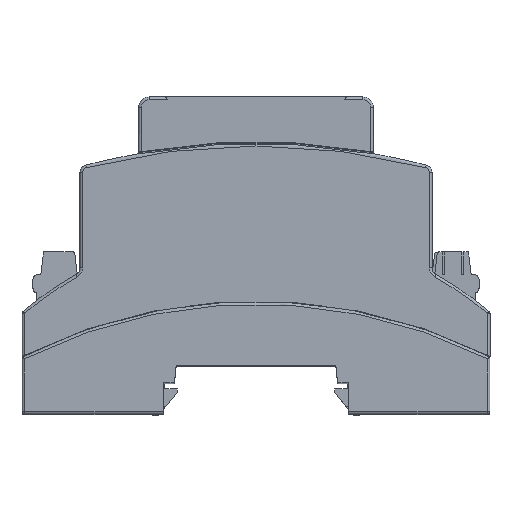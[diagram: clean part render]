
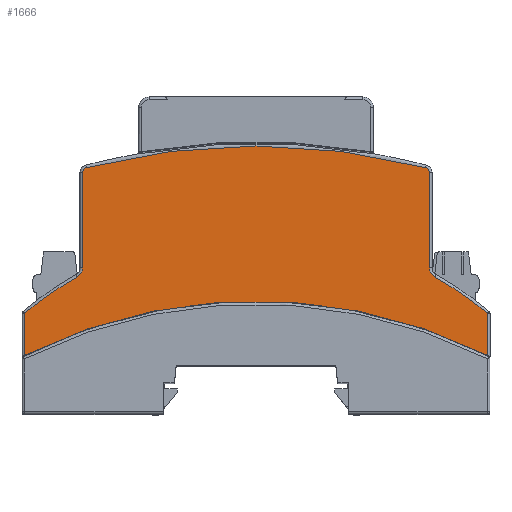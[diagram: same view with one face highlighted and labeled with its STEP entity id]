
A CAD part, top view. The second image highlights one B-rep face of the part: STEP entity #1666.
In plain terms, the highlighted planar face has unit normal (0, 0, 1).
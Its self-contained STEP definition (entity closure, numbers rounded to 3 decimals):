
#1666=ADVANCED_FACE('',(#4141),#4142,.F.);
#4141=FACE_OUTER_BOUND('',#7440,.T.);
#4142=PLANE('',#7441);
#7440=EDGE_LOOP('',(#12897,#12898,#12899,#12900,#12901,#12902,#12903,#12904,#12905,#12906,#12907,#12908));
#7441=AXIS2_PLACEMENT_3D('',#12909,#12910,#12911);
#12897=ORIENTED_EDGE('',*,*,#22098,.T.);
#12898=ORIENTED_EDGE('',*,*,#22099,.F.);
#12899=ORIENTED_EDGE('',*,*,#21836,.T.);
#12900=ORIENTED_EDGE('',*,*,#22100,.F.);
#12901=ORIENTED_EDGE('',*,*,#22101,.T.);
#12902=ORIENTED_EDGE('',*,*,#22094,.F.);
#12903=ORIENTED_EDGE('',*,*,#22102,.F.);
#12904=ORIENTED_EDGE('',*,*,#22103,.T.);
#12905=ORIENTED_EDGE('',*,*,#22104,.F.);
#12906=ORIENTED_EDGE('',*,*,#22105,.F.);
#12907=ORIENTED_EDGE('',*,*,#22106,.T.);
#12908=ORIENTED_EDGE('',*,*,#22107,.F.);
#12909=CARTESIAN_POINT('',(18.596,109.589,-65.5));
#12910=DIRECTION('',(0.,0.,-1.0));
#12911=DIRECTION('',(-1.0,0.0,0.));
#21836=EDGE_CURVE('',#26950,#26948,#26951,.T.);
#22094=EDGE_CURVE('',#27354,#27355,#27356,.T.);
#22098=EDGE_CURVE('',#27360,#27361,#27362,.T.);
#22099=EDGE_CURVE('',#26950,#27361,#27363,.T.);
#22100=EDGE_CURVE('',#27364,#26948,#27365,.T.);
#22101=EDGE_CURVE('',#27364,#27355,#27366,.T.);
#22102=EDGE_CURVE('',#27367,#27354,#27368,.T.);
#22103=EDGE_CURVE('',#27367,#27369,#27370,.T.);
#22104=EDGE_CURVE('',#27371,#27369,#27372,.T.);
#22105=EDGE_CURVE('',#27373,#27371,#27374,.T.);
#22106=EDGE_CURVE('',#27373,#27375,#27376,.T.);
#22107=EDGE_CURVE('',#27360,#27375,#27377,.T.);
#26948=VERTEX_POINT('',#34220);
#26950=VERTEX_POINT('',#34222);
#26951=CIRCLE('',#34223,69.5);
#27354=VERTEX_POINT('',#35157);
#27355=VERTEX_POINT('',#35158);
#27356=LINE('',#35159,#35160);
#27360=VERTEX_POINT('',#35212);
#27361=VERTEX_POINT('',#35213);
#27362=LINE('',#35214,#35215);
#27363=CIRCLE('',#35216,2.0);
#27364=VERTEX_POINT('',#35217);
#27365=LINE('',#35218,#35219);
#27366=CIRCLE('',#35220,99.5);
#27367=VERTEX_POINT('',#35221);
#27368=CIRCLE('',#35222,69.5);
#27369=VERTEX_POINT('',#35223);
#27370=CIRCLE('',#35224,2.0);
#27371=VERTEX_POINT('',#35225);
#27372=LINE('',#35226,#35227);
#27373=VERTEX_POINT('',#35228);
#27374=CIRCLE('',#35229,1.0);
#27375=VERTEX_POINT('',#35230);
#27376=CIRCLE('',#35231,129.2);
#27377=CIRCLE('',#35232,1.0);
#34220=CARTESIAN_POINT('',(-44.1,84.86,-65.5));
#34222=CARTESIAN_POINT('',(-34.014,91.817,-65.5));
#34223=AXIS2_PLACEMENT_3D('',#42118,#42119,#42120);
#35157=CARTESIAN_POINT('',(44.6,84.86,-65.5));
#35158=CARTESIAN_POINT('',(44.6,76.769,-65.5));
#35159=CARTESIAN_POINT('',(44.6,84.86,-65.5));
#35160=VECTOR('',#42439,8.091);
#35212=CARTESIAN_POINT('',(-33.,111.777,-65.5));
#35213=CARTESIAN_POINT('',(-33.,93.557,-65.5));
#35214=CARTESIAN_POINT('',(-33.,111.777,-65.5));
#35215=VECTOR('',#42443,18.22);
#35216=AXIS2_PLACEMENT_3D('',#42444,#42445,#42446);
#35217=CARTESIAN_POINT('',(-44.1,76.769,-65.5));
#35218=CARTESIAN_POINT('',(-44.1,76.769,-65.5));
#35219=VECTOR('',#42447,8.091);
#35220=AXIS2_PLACEMENT_3D('',#42448,#42449,#42450);
#35221=CARTESIAN_POINT('',(34.514,91.817,-65.5));
#35222=AXIS2_PLACEMENT_3D('',#42451,#42452,#42453);
#35223=CARTESIAN_POINT('',(33.5,93.557,-65.5));
#35224=AXIS2_PLACEMENT_3D('',#42454,#42455,#42456);
#35225=CARTESIAN_POINT('',(33.5,111.777,-65.5));
#35226=CARTESIAN_POINT('',(33.5,111.777,-65.5));
#35227=VECTOR('',#42457,18.22);
#35228=CARTESIAN_POINT('',(32.752,112.745,-65.5));
#35229=AXIS2_PLACEMENT_3D('',#42458,#42459,#42460);
#35230=CARTESIAN_POINT('',(-32.252,112.745,-65.5));
#35231=AXIS2_PLACEMENT_3D('',#42461,#42462,#42463);
#35232=AXIS2_PLACEMENT_3D('',#42464,#42465,#42466);
#42118=CARTESIAN_POINT('',(0.25,31.35,-65.5));
#42119=DIRECTION('',(0.,0.,1.0));
#42120=DIRECTION('',(0.,-1.0,0.));
#42439=DIRECTION('',(0.,-1.0,0.));
#42443=DIRECTION('',(0.,-1.0,0.));
#42444=CARTESIAN_POINT('',(-35.,93.557,-65.5));
#42445=DIRECTION('',(0.,0.,1.0));
#42446=DIRECTION('',(0.,-1.0,0.));
#42447=DIRECTION('',(0.,1.0,0.));
#42448=CARTESIAN_POINT('',(0.25,-12.3,-65.5));
#42449=DIRECTION('',(0.,0.,-1.0));
#42450=DIRECTION('',(-1.0,0.,0.));
#42451=CARTESIAN_POINT('',(0.25,31.35,-65.5));
#42452=DIRECTION('',(0.,0.,-1.0));
#42453=DIRECTION('',(0.,1.0,0.));
#42454=CARTESIAN_POINT('',(35.5,93.557,-65.5));
#42455=DIRECTION('',(0.,0.,-1.0));
#42456=DIRECTION('',(0.,1.0,0.));
#42457=DIRECTION('',(0.,-1.0,0.));
#42458=CARTESIAN_POINT('',(32.5,111.777,-65.5));
#42459=DIRECTION('',(0.,0.,-1.0));
#42460=DIRECTION('',(1.0,0.,0.));
#42461=CARTESIAN_POINT('',(0.25,-12.3,-65.5));
#42462=DIRECTION('',(0.,0.,1.0));
#42463=DIRECTION('',(-1.0,0.,0.));
#42464=CARTESIAN_POINT('',(-32.,111.777,-65.5));
#42465=DIRECTION('',(0.,0.,-1.0));
#42466=DIRECTION('',(1.0,0.,0.));
